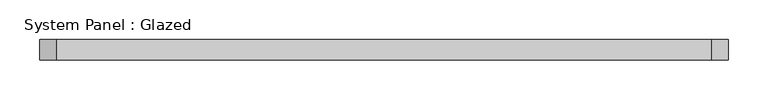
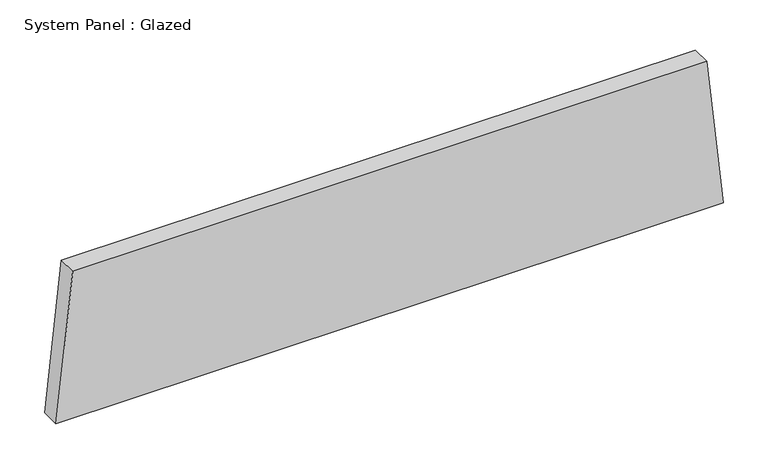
"""IFC4 building model written with IfcOpenShell, lengths in millimetres: plate geometry, System Panel : Glazed."""

import ifcopenshell
import ifcopenshell.guid

model = None  # the IFC model being written
_history = None  # IfcOwnerHistory: only IFC2X3 demands one
_inside = {}  # id of a spatial element -> (the spatial element, [elements in it])
_under = {}  # id of a project, library or spatial element -> (it, [spatial elements below it])
_declared = {}  # id of a project -> (the project, [libraries it declares])
_typed = {}  # id of a type object -> (the type object, [elements of that type])
_made_of = {}  # id of a material, layer set ... -> (it, [elements and type objects made of it])


def new_model(schema):
    """Start an empty IFC model of exactly this schema.

    Asked for "IFC4X3", IfcOpenShell would pick the latest addendum, in which some entities
    have other attributes; the version numbers below select the first issue.
    IFC2X3 requires an IfcOwnerHistory on every rooted entity: one is made here for all.
    """
    global model, _history
    if schema == "IFC4X3":
        model = ifcopenshell.file(schema_version=(4, 3, 0, 0))
    else:
        model = ifcopenshell.file(schema=schema)
    _inside.clear()
    _under.clear()
    _declared.clear()
    _typed.clear()
    _made_of.clear()
    _history = None
    if model.schema == "IFC2X3":
        org = make("IfcOrganization", Name="unknown")
        user = make(
            "IfcPersonAndOrganization",
            ThePerson=make("IfcPerson", FamilyName="unknown"),
            TheOrganization=org,
        )
        app = make(
            "IfcApplication",
            ApplicationDeveloper=org,
            Version="unknown",
            ApplicationFullName="unknown",
            ApplicationIdentifier="unknown",
        )
        _history = make(
            "IfcOwnerHistory",
            OwningUser=user,
            OwningApplication=app,
            ChangeAction="ADDED",
            CreationDate=0,
        )
    return model


def make(cls, **values):
    """One entity of the class cls with the attributes given. An attribute that is None is left unset."""
    return model.create_entity(
        cls, **{name: value for name, value in values.items() if value is not None}
    )


def rooted(cls, **values):
    """An entity with a GlobalId (a new one), such as an element, a storey or a relation."""
    return make(cls, GlobalId=ifcopenshell.guid.new(), OwnerHistory=_history, **values)


def si_unit(unit_type, name, prefix=None):
    """IfcSIUnit, for example si_unit("LENGTHUNIT", "METRE", prefix="MILLI")."""
    return make("IfcSIUnit", UnitType=unit_type, Prefix=prefix, Name=name)


def assignment(units):
    """IfcUnitAssignment: the units of a project."""
    return None if units is None else make("IfcUnitAssignment", Units=units)


def point(xyz):
    """IfcCartesianPoint."""
    return None if xyz is None else make("IfcCartesianPoint", Coordinates=xyz)


def direction(xyz):
    """IfcDirection."""
    return None if xyz is None else make("IfcDirection", DirectionRatios=xyz)


def frame(location, z_axis=None, x_axis=None):
    """IfcAxis2Placement3D, a coordinate frame: its origin and axes. An axis left out is left unset."""
    return make(
        "IfcAxis2Placement3D",
        Location=point(location),
        Axis=direction(z_axis),
        RefDirection=direction(x_axis),
    )


def origin():
    """The frame at (0, 0, 0) with its axes left unset."""
    return frame((0.0, 0.0, 0.0))


def place(relative_to, where):
    """IfcLocalPlacement: puts the frame where relative to a parent placement (None: the world)."""
    return make(
        "IfcLocalPlacement", PlacementRelTo=relative_to, RelativePlacement=where
    )


def context(
    kind, dimensions, precision=None, world=None, true_north=None, identifier=None
):
    """IfcGeometricRepresentationContext, for example the 3D "Model" context."""
    return make(
        "IfcGeometricRepresentationContext",
        ContextIdentifier=identifier,
        ContextType=kind,
        CoordinateSpaceDimension=dimensions,
        Precision=precision,
        WorldCoordinateSystem=world,
        TrueNorth=true_north,
    )


def project(units=None, contexts=None):
    """IfcProject with its units and contexts."""
    return rooted(
        "IfcProject",
        Name="project",
        RepresentationContexts=contexts,
        UnitsInContext=assignment(units),
    )


def spatial(cls, under=None, at=None, **own):
    """A site, building, storey or space (cls), placed at a placement, below another one or the project."""
    s = rooted(cls, ObjectPlacement=at, **own)
    if under is not None:
        _under.setdefault(under.id(), (under, []))[1].append(s)
    return s


def polyline(points):
    """IfcPolyline through the points."""
    return make("IfcPolyline", Points=[point(p) for p in points])


def outline(outer, holes=None, kind="AREA"):
    """IfcArbitraryClosedProfileDef: a profile drawn as a closed curve; with holes, ...WithVoids."""
    if holes is None:
        return make("IfcArbitraryClosedProfileDef", ProfileType=kind, OuterCurve=outer)
    return make(
        "IfcArbitraryProfileDefWithVoids",
        ProfileType=kind,
        OuterCurve=outer,
        InnerCurves=holes,
    )


def extrude(swept, where, along, depth):
    """IfcExtrudedAreaSolid: the profile swept, set in the frame where, extruded along a direction by depth."""
    return make(
        "IfcExtrudedAreaSolid",
        SweptArea=swept,
        Position=where,
        ExtrudedDirection=direction(along),
        Depth=depth,
    )


def shape(context_of_items, identifier, shape_type, items):
    """IfcShapeRepresentation: the items that make up one representation, for example the "Body"."""
    return make(
        "IfcShapeRepresentation",
        ContextOfItems=context_of_items,
        RepresentationIdentifier=identifier,
        RepresentationType=shape_type,
        Items=items,
    )


def source(mapping_origin, context_of_items, identifier, shape_type, items):
    """IfcRepresentationMap: a shape defined once, which mapped items show again and again."""
    return make(
        "IfcRepresentationMap",
        MappingOrigin=mapping_origin,
        MappedRepresentation=shape(context_of_items, identifier, shape_type, items),
    )


def transform(
    local_origin,
    x_axis=None,
    y_axis=None,
    z_axis=None,
    scale=None,
    scale2=None,
    scale3=None,
    uniform=True,
):
    """IfcCartesianTransformationOperator3D, or its non-uniform kind. x_axis, y_axis, z_axis: its Axis1, 2, 3."""
    if uniform:
        return make(
            "IfcCartesianTransformationOperator3D",
            Axis1=direction(x_axis),
            Axis2=direction(y_axis),
            LocalOrigin=point(local_origin),
            Scale=scale,
            Axis3=direction(z_axis),
        )
    return make(
        "IfcCartesianTransformationOperator3DnonUniform",
        Axis1=direction(x_axis),
        Axis2=direction(y_axis),
        LocalOrigin=point(local_origin),
        Scale=scale,
        Axis3=direction(z_axis),
        Scale2=scale2,
        Scale3=scale3,
    )


def mapped(mapping_source, mapping_target):
    """IfcMappedItem: shows the shape of a source again, moved by a transform."""
    return make(
        "IfcMappedItem", MappingSource=mapping_source, MappingTarget=mapping_target
    )


def made_of(thing, what):
    """Note that an element or type object is made of a material, layer set ...; save() writes the relation."""
    if what is not None:
        _made_of.setdefault(what.id(), (what, []))[1].append(thing)
    return thing


def element(
    cls,
    number,
    at=None,
    inside=None,
    cuts=None,
    type_object=None,
    material=None,
    context=None,
    identifier="Body",
    shape_type=None,
    held_by="IfcProductDefinitionShape",
    body=None,
    shapes=None,
    **own,
):
    """One element of the class cls, such as IfcWall. Its Tag is "e" and its number.

    at: its placement. inside: the storey or other place that contains it. cuts: it is an
    opening in that element (IfcRelVoidsElement). A single representation is given by context,
    identifier, shape_type and body (its items); several are given by shapes. held_by: the class
    of the entity that holds the representations. save() writes the other relations.
    """
    e = rooted(cls, Tag="e%d" % number, ObjectPlacement=at, **own)
    if body is not None:
        shapes = [shape(context, identifier, shape_type, body)]
    if shapes is not None:
        e.Representation = make(held_by, Representations=shapes)
    if inside is not None:
        _inside.setdefault(inside.id(), (inside, []))[1].append(e)
    if cuts is not None:
        rooted(
            "IfcRelVoidsElement", RelatingBuildingElement=cuts, RelatedOpeningElement=e
        )
    if type_object is not None:
        _typed.setdefault(type_object.id(), (type_object, []))[1].append(e)
    return made_of(e, material)


def aggregate(whole, parts):
    """IfcRelAggregates: a whole, such as a stair, and the parts it consists of."""
    return rooted("IfcRelAggregates", RelatingObject=whole, RelatedObjects=parts)


def save(model, path):
    """Write the relations noted so far, then the file.

    IfcRelAggregates (storeys below a building ...), IfcRelContainedInSpatialStructure (elements
    in a storey), IfcRelDefinesByType, IfcRelAssociatesMaterial and IfcRelDeclares: one each for
    every whole, place, type object, material and project.
    """
    for whole, parts in _under.values():
        aggregate(whole, parts)
    for where, things in _inside.values():
        rooted(
            "IfcRelContainedInSpatialStructure",
            RelatedElements=things,
            RelatingStructure=where,
        )
    for kind, things in _typed.values():
        rooted("IfcRelDefinesByType", RelatedObjects=things, RelatingType=kind)
    for what, things in _made_of.values():
        rooted("IfcRelAssociatesMaterial", RelatedObjects=things, RelatingMaterial=what)
    for by, libraries in _declared.values():
        rooted("IfcRelDeclares", RelatingContext=by, RelatedDefinitions=libraries)
    model.write(path)


def system_panel_glazed_6cef0b5d(model_context):
    return source(origin(), model_context, "Body", "SweptSolid", [
        extrude(outline(polyline([(0.0, -431.521051), (0.0, 431.521051), (201.0481529, 410.0735374), (201.0481529, -410.0735374), (0.0, -431.521051)])), frame((0.0, -44.45, 0.0), z_axis=(0.0, 1.0, 0.0), x_axis=(0.0, 0.0, 1.0)), (0.0, 0.0, 1.0), 25.4),
    ])


if __name__ == "__main__":
    model = new_model("IFC4")
    model_context = context("Model", 3, world=origin())
    ifc_project = project(units=[si_unit("LENGTHUNIT", "METRE", prefix="MILLI")], contexts=[model_context])
    site = spatial("IfcSite", under=ifc_project)
    building = spatial("IfcBuilding", under=site)
    placement = place(None, origin())
    system_panel_glazed_shape = system_panel_glazed_6cef0b5d(model_context)
    element("IfcPlate", 1, ObjectType="System Panel : Glazed", at=placement, inside=building, context=model_context, shape_type="MappedRepresentation", body=[
        mapped(system_panel_glazed_shape, transform((0.0, 0.0, 0.0), x_axis=(1.0, 0.0, 0.0), y_axis=(0.0, 1.0, 0.0), z_axis=(0.0, 0.0, 1.0))),
    ])
    save(model, "model.ifc")
